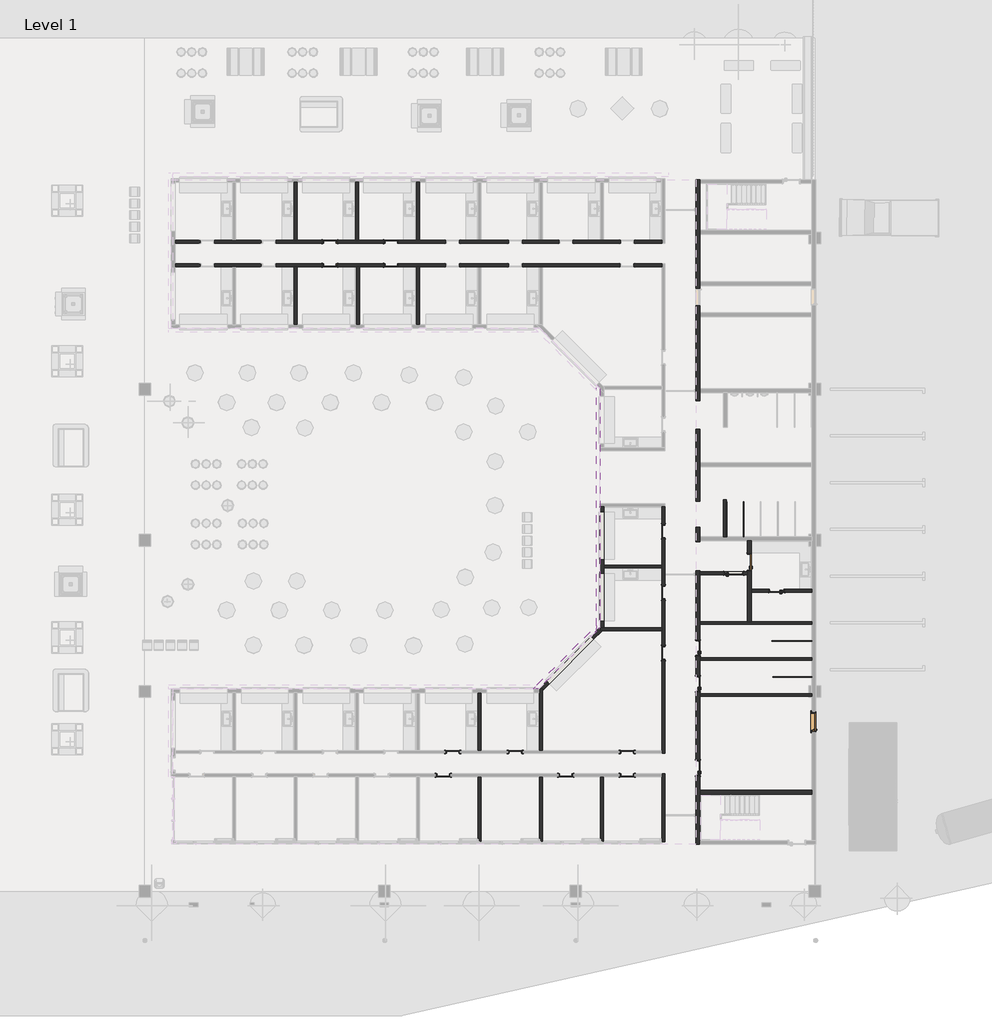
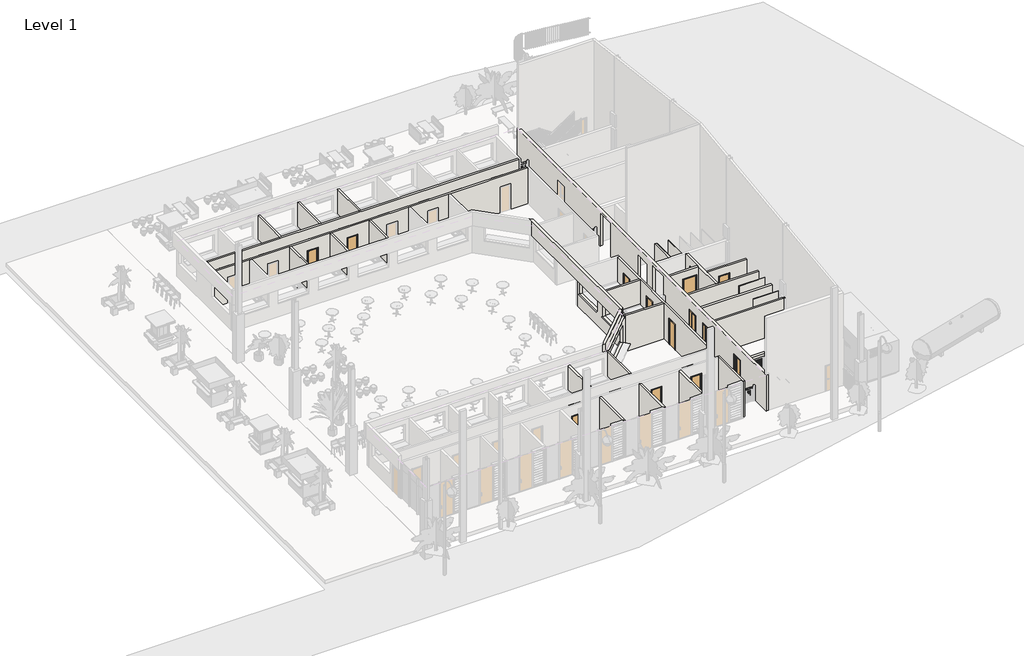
# One storey, part 12 of 32: 34 walls, 20 doors.
"""IFC4 building model written with IfcOpenShell, lengths in millimetres."""

from ifc_helpers import new_model, si_unit, frame, origin, place, context, project, spatial, polyline, outline, extrude, faceted_brep, transform, mapped, element, save
from components import doors_intsgl_1_1010x2110mm_7920e6b8, doors_intsgl_1_760x2110mm_a62a0124, doors_intsgl_1_760x2110mm_b66d165a, doors_intsgl_1_810x2110mm_70afc9f2, doors_intsgl_1_810x2110mm_25a09e80, doors_intsgl_1_910x2110mm_80b4a4db, ext_single_in_timber_flush_nz_910_x_2030_787d0b92

model = new_model("IFC4")

# Units and contexts
model_context = context("Model", 3, world=origin())
ifc_project = project(units=[si_unit("LENGTHUNIT", "METRE", prefix="MILLI")], contexts=[model_context])

# Site, building, storey
site = spatial("IfcSite", under=ifc_project)
building = spatial("IfcBuilding", under=site)
storey = spatial("IfcBuildingStorey", under=building, Name="Level 1", Elevation=2800.0)

# Doors
placement = place(None, origin())
doors_intsgl_1_1010x2110mm_shape = doors_intsgl_1_1010x2110mm_7920e6b8(model_context)
element("IfcDoor", 1, ObjectType="Doors_IntSgl_1 : 1010x2110mm", at=placement, inside=storey, context=model_context, shape_type="MappedRepresentation", body=[
    mapped(doors_intsgl_1_1010x2110mm_shape, transform((-16970.9339353, -19480.9199596, 2820.0), x_axis=(1.0, 0.0, 0.0), y_axis=(0.0, 1.0, 0.0), z_axis=(0.0, 0.0, 1.0))),
])
doors_intsgl_1_760x2110mm_shape = doors_intsgl_1_760x2110mm_a62a0124(model_context)
element("IfcDoor", 2, ObjectType="Doors_IntSgl_1 : 760x2110mm", at=placement, inside=storey, context=model_context, shape_type="MappedRepresentation", body=[
    mapped(doors_intsgl_1_760x2110mm_shape, transform((-22450.9339353, -29855.9199596, 2800.0), x_axis=(-1.0, 0.0, 0.0), y_axis=(0.0, -1.0, 0.0), z_axis=(0.0, 0.0, 1.0))),
])
element("IfcDoor", 3, ObjectType="Doors_IntSgl_1 : 760x2110mm", at=placement, inside=storey, context=model_context, shape_type="MappedRepresentation", body=[
    mapped(doors_intsgl_1_760x2110mm_shape, transform((-25600.9339353, -29855.9199596, 2800.0), x_axis=(-1.0, 0.0, 0.0), y_axis=(0.0, -1.0, 0.0), z_axis=(0.0, 0.0, 1.0))),
])
element("IfcDoor", 4, ObjectType="Doors_IntSgl_1 : 760x2110mm", at=placement, inside=storey, context=model_context, shape_type="MappedRepresentation", body=[
    mapped(doors_intsgl_1_760x2110mm_shape, transform((-31900.9339353, -29855.9199596, 2800.0), x_axis=(-1.0, 0.0, 0.0), y_axis=(0.0, -1.0, 0.0), z_axis=(0.0, 0.0, 1.0))),
])
element("IfcDoor", 5, ObjectType="Doors_IntSgl_1 : 760x2110mm", at=placement, inside=storey, context=model_context, shape_type="MappedRepresentation", body=[
    mapped(doors_intsgl_1_760x2110mm_shape, transform((-20585.9339353, -23570.9199596, 2800.0), x_axis=(0.0, 1.0, 0.0), y_axis=(-1.0, 0.0, 0.0), z_axis=(0.0, 0.0, 1.0))),
])
element("IfcDoor", 6, ObjectType="Doors_IntSgl_1 : 760x2110mm", at=placement, inside=storey, context=model_context, shape_type="MappedRepresentation", body=[
    mapped(doors_intsgl_1_760x2110mm_shape, transform((-34571.3056755, -2455.9199596, 2800.0), x_axis=(1.0, 0.0, 0.0), y_axis=(0.0, 1.0, 0.0), z_axis=(0.0, 0.0, 1.0))),
])
element("IfcDoor", 7, ObjectType="Doors_IntSgl_1 : 760x2110mm", at=placement, inside=storey, context=model_context, shape_type="MappedRepresentation", body=[
    mapped(doors_intsgl_1_760x2110mm_shape, transform((-37716.7705062, -2455.9199596, 2800.0), x_axis=(1.0, 0.0, 0.0), y_axis=(0.0, 1.0, 0.0), z_axis=(0.0, 0.0, 1.0))),
])
element("IfcDoor", 8, ObjectType="Doors_IntSgl_1 : 760x2110mm", at=placement, inside=storey, context=model_context, shape_type="MappedRepresentation", body=[
    mapped(doors_intsgl_1_760x2110mm_shape, transform((-28195.9339353, -28655.9199596, 2800.0), x_axis=(1.0, 0.0, 0.0), y_axis=(0.0, 1.0, 0.0), z_axis=(0.0, 0.0, 1.0))),
])
element("IfcDoor", 9, ObjectType="Doors_IntSgl_1 : 760x2110mm", at=placement, inside=storey, context=model_context, shape_type="MappedRepresentation", body=[
    mapped(doors_intsgl_1_760x2110mm_shape, transform((-31420.9339353, -28655.9199596, 2800.0), x_axis=(1.0, 0.0, 0.0), y_axis=(0.0, 1.0, 0.0), z_axis=(0.0, 0.0, 1.0))),
])
element("IfcDoor", 10, ObjectType="Doors_IntSgl_1 : 760x2110mm", at=placement, inside=storey, context=model_context, shape_type="MappedRepresentation", body=[
    mapped(doors_intsgl_1_760x2110mm_shape, transform((-20585.9339353, -20470.9199596, 2800.0), x_axis=(0.0, 1.0, 0.0), y_axis=(-1.0, 0.0, 0.0), z_axis=(0.0, 0.0, 1.0))),
])
element("IfcDoor", 11, ObjectType="Doors_IntSgl_1 : 760x2110mm", at=placement, inside=storey, context=model_context, shape_type="MappedRepresentation", body=[
    mapped(doors_intsgl_1_760x2110mm_shape, transform((-20585.9339353, -17320.9199596, 2800.0), x_axis=(0.0, 1.0, 0.0), y_axis=(-1.0, 0.0, 0.0), z_axis=(0.0, 0.0, 1.0))),
])
doors_intsgl_1_760x2110mm_2_shape = doors_intsgl_1_760x2110mm_b66d165a(model_context)
element("IfcDoor", 12, ObjectType="Doors_IntSgl_1 : 760x2110mm", at=placement, inside=storey, context=model_context, shape_type="MappedRepresentation", body=[
    mapped(doors_intsgl_1_760x2110mm_2_shape, transform((-22450.9339353, -28655.9199596, 2800.0), x_axis=(-1.0, 0.0, 0.0), y_axis=(0.0, -1.0, 0.0), z_axis=(0.0, 0.0, 1.0))),
])
element("IfcDoor", 13, ObjectType="Doors_IntSgl_1 : 760x2110mm", at=placement, inside=storey, context=model_context, shape_type="MappedRepresentation", body=[
    mapped(doors_intsgl_1_760x2110mm_2_shape, transform((-34571.3056755, -3655.9199596, 2800.0), x_axis=(1.0, 0.0, 0.0), y_axis=(0.0, 1.0, 0.0), z_axis=(0.0, 0.0, 1.0))),
])
element("IfcDoor", 14, ObjectType="Doors_IntSgl_1 : 760x2110mm", at=placement, inside=storey, context=model_context, shape_type="MappedRepresentation", body=[
    mapped(doors_intsgl_1_760x2110mm_2_shape, transform((-37716.7705062, -3655.9199596, 2800.0), x_axis=(1.0, 0.0, 0.0), y_axis=(0.0, 1.0, 0.0), z_axis=(0.0, 0.0, 1.0))),
])
doors_intsgl_1_810x2110mm_shape = doors_intsgl_1_810x2110mm_70afc9f2(model_context)
element("IfcDoor", 15, ObjectType="Doors_IntSgl_1 : 810x2110mm", at=placement, inside=storey, context=model_context, shape_type="MappedRepresentation", body=[
    mapped(doors_intsgl_1_810x2110mm_shape, transform((-18810.7705062, -29475.5199596, 2800.0), x_axis=(0.0, 1.0, 0.0), y_axis=(-1.0, 0.0, 0.0), z_axis=(0.0, 0.0, 1.0))),
])
element("IfcDoor", 16, ObjectType="Doors_IntSgl_1 : 810x2110mm", at=placement, inside=storey, context=model_context, shape_type="MappedRepresentation", body=[
    mapped(doors_intsgl_1_810x2110mm_shape, transform((-18810.7705062, -23320.5199596, 2800.0), x_axis=(0.0, 1.0, 0.0), y_axis=(-1.0, 0.0, 0.0), z_axis=(0.0, 0.0, 1.0))),
])
element("IfcDoor", 17, ObjectType="Doors_IntSgl_1 : 810x2110mm", at=placement, inside=storey, context=model_context, shape_type="MappedRepresentation", body=[
    mapped(doors_intsgl_1_810x2110mm_shape, transform((-18810.7705062, -25160.5199596, 2800.0), x_axis=(0.0, 1.0, 0.0), y_axis=(-1.0, 0.0, 0.0), z_axis=(0.0, 0.0, 1.0))),
])
doors_intsgl_1_810x2110mm_2_shape = doors_intsgl_1_810x2110mm_25a09e80(model_context)
element("IfcDoor", 18, ObjectType="Doors_IntSgl_1 : 810x2110mm", at=placement, inside=storey, context=model_context, shape_type="MappedRepresentation", body=[
    mapped(doors_intsgl_1_810x2110mm_2_shape, transform((-14765.7705062, -20380.9199596, 2800.0), x_axis=(-1.0, 0.0, 0.0), y_axis=(0.0, -1.0, 0.0), z_axis=(0.0, 0.0, 1.0))),
])
doors_intsgl_1_910x2110mm_shape = doors_intsgl_1_910x2110mm_80b4a4db(model_context)
element("IfcDoor", 19, ObjectType="Doors_IntSgl_1 : 910x2110mm", at=placement, inside=storey, context=model_context, shape_type="MappedRepresentation", body=[
    mapped(doors_intsgl_1_910x2110mm_shape, transform((-16175.9339353, -18910.9199596, 2800.0), x_axis=(0.0, 1.0, 0.0), y_axis=(-1.0, 0.0, 0.0), z_axis=(0.0, 0.0, 1.0))),
])
ext_single_in_timber_flush_nz_910_x_2030_shape = ext_single_in_timber_flush_nz_910_x_2030_787d0b92(model_context)
element("IfcDoor", 20, ObjectType="Ext Single In-Timber-Flush (NZ) : 910 x 2030", at=placement, inside=storey, context=model_context, shape_type="MappedRepresentation", body=[
    mapped(ext_single_in_timber_flush_nz_910_x_2030_shape, transform((-12809.9496854, -27135.5199596, 2800.0), x_axis=(0.0, 1.0, 0.0), y_axis=(-1.0, 0.0, 0.0), z_axis=(0.0, 0.0, 1.0))),
])

# Walls
element("IfcWall", 21, ObjectType="150cmu", at=placement, inside=storey, context=model_context, shape_type="SweptSolid", body=[
    extrude(outline(polyline([(-17510.7705062, -17605.9199596), (-17510.7705062, -15705.9199596), (-17360.7705062, -15705.9199596), (-17360.7705062, -17605.9199596), (-17510.7705062, -17605.9199596)])), frame((0.0, 0.0, 2800.0), z_axis=(0.0, 0.0, 1.0), x_axis=(1.0, 0.0, 0.0)), (0.0, 0.0, 1.0), 2789.0),
])
element("IfcWall", 22, ObjectType="150cmu", at=placement, inside=storey, context=model_context, shape_type="SweptSolid", body=[
    extrude(outline(polyline([(-18710.7705062, -23805.5199596), (-12960.7705062, -23805.5199596), (-12960.7705062, -23955.5199596), (-18710.7705062, -23955.5199596), (-18710.7705062, -23805.5199596)])), frame((0.0, 0.0, 2800.0), z_axis=(0.0, 0.0, 1.0), x_axis=(1.0, 0.0, 0.0)), (0.0, 0.0, 1.0), 2789.0),
])
element("IfcWall", 23, ObjectType="150cmu", at=placement, inside=storey, context=model_context, shape_type="Brep", body=[
    faceted_brep([(-20510.9339353, -33255.9199596, 2800.0), (-20510.9339353, -29780.9199596, 2800.0), (-20510.9339353, -29780.9199596, 5800.0), (-20510.9339353, -33255.9199596, 5800.0), (-20660.9339353, -33255.9199596, 2800.0), (-20660.9339353, -33255.9199596, 5800.0), (-20660.9339353, -29930.9199596, 5800.0), (-20660.9339353, -29780.9199596, 5800.0), (-20660.9339353, -29780.9199596, 2800.0), (-20660.9339353, -29930.9199596, 2800.0)], [[[0, 1, 2, 3]], [[4, 5, 6, 7, 8, 9]], [[1, 0, 4, 9, 8]], [[3, 2, 7, 6, 5]], [[0, 3, 5, 4]], [[2, 1, 8, 7]]]),
])
element("IfcWall", 24, ObjectType="150cmu", at=placement, inside=storey, context=model_context, shape_type="SweptSolid", body=[
    extrude(outline(polyline([(-23810.9339353, -33230.9199596), (-23810.9339353, -29930.9199596), (-23660.9339353, -29930.9199596), (-23660.9339353, -33230.9199596), (-23810.9339353, -33230.9199596)])), frame((0.0, 0.0, 2800.0), z_axis=(0.0, 0.0, 1.0), x_axis=(1.0, 0.0, 0.0)), (0.0, 0.0, 1.0), 3000.0),
])
element("IfcWall", 25, ObjectType="150cmu", at=placement, inside=storey, context=model_context, shape_type="SweptSolid", body=[
    extrude(outline(polyline([(-26810.9339353, -29930.9199596), (-26810.9339353, -33230.9199596), (-26960.9339353, -33230.9199596), (-26960.9339353, -29930.9199596), (-26810.9339353, -29930.9199596)])), frame((0.0, 0.0, 2800.0), z_axis=(0.0, 0.0, 1.0), x_axis=(1.0, 0.0, 0.0)), (0.0, 0.0, 1.0), 3000.0),
])
element("IfcWall", 26, ObjectType="150cmu", at=placement, inside=storey, context=model_context, shape_type="SweptSolid", body=[
    extrude(outline(polyline([(-29960.9339353, -29930.9199596), (-29960.9339353, -33230.9199596), (-30110.9339353, -33230.9199596), (-30110.9339353, -29930.9199596), (-29960.9339353, -29930.9199596)])), frame((0.0, 0.0, 2800.0), z_axis=(0.0, 0.0, 1.0), x_axis=(1.0, 0.0, 0.0)), (0.0, 0.0, 1.0), 3000.0),
])
element("IfcWall", 27, ObjectType="150cmu", at=placement, inside=storey, context=model_context, shape_type="SweptSolid", body=[
    extrude(outline(polyline([(2800.0, -16275.9339353), (5589.0, -16275.9339353), (5589.0, -18710.7705062), (2800.0, -18710.7705062), (2800.0, -16275.9339353)]), holes=[polyline([(2820.0, -16465.9339353), (2820.0, -17475.9339353), (4930.0, -17475.9339353), (4930.0, -16465.9339353), (2820.0, -16465.9339353)])]), frame((0.0, -19555.9199596, 0.0), z_axis=(0.0, 1.0, 0.0), x_axis=(0.0, 0.0, 1.0)), (0.0, 0.0, 1.0), 150.0),
])
element("IfcWall", 28, ObjectType="150cmu", at=placement, inside=storey, context=model_context, shape_type="Brep", body=[
    faceted_brep([(-20660.9339353, -28730.9199596, 5800.0), (-20660.9339353, -28580.9199596, 5800.0), (-20660.9339353, -22430.9199596, 5800.0), (-20660.9339353, -22280.9199596, 5800.0), (-20660.9339353, -19205.9199596, 5800.0), (-20660.9339353, -19055.9199596, 5800.0), (-20660.9339353, -16055.9199596, 5800.0), (-20660.9339353, -16055.9199596, 2800.0), (-20660.9339353, -16960.9199596, 2800.0), (-20660.9339353, -16960.9199596, 4910.0), (-20660.9339353, -17680.9199596, 4910.0), (-20660.9339353, -17680.9199596, 2800.0), (-20660.9339353, -19055.9199596, 2800.0), (-20660.9339353, -19205.9199596, 2800.0), (-20660.9339353, -20110.9199596, 2800.0), (-20660.9339353, -20110.9199596, 4910.0), (-20660.9339353, -20830.9199596, 4910.0), (-20660.9339353, -20830.9199596, 2800.0), (-20660.9339353, -22280.9199596, 2800.0), (-20660.9339353, -22430.9199596, 2800.0), (-20660.9339353, -23210.9199596, 2800.0), (-20660.9339353, -23210.9199596, 4910.0), (-20660.9339353, -23930.9199596, 4910.0), (-20660.9339353, -23930.9199596, 2800.0), (-20660.9339353, -28580.9199596, 2800.0), (-20660.9339353, -28730.9199596, 2800.0), (-20510.9339353, -16055.9199596, 5800.0), (-20510.9339353, -28730.9199596, 5800.0), (-20510.9339353, -28730.9199596, 2800.0), (-20510.9339353, -23930.9199596, 2800.0), (-20510.9339353, -23930.9199596, 4910.0), (-20510.9339353, -23210.9199596, 4910.0), (-20510.9339353, -23210.9199596, 2800.0), (-20510.9339353, -20830.9199596, 2800.0), (-20510.9339353, -20830.9199596, 4910.0), (-20510.9339353, -20110.9199596, 4910.0), (-20510.9339353, -20110.9199596, 2800.0), (-20510.9339353, -17680.9199596, 2800.0), (-20510.9339353, -17680.9199596, 4910.0), (-20510.9339353, -16960.9199596, 4910.0), (-20510.9339353, -16960.9199596, 2800.0), (-20510.9339353, -16055.9199596, 2800.0)], [[[0, 1, 2, 3, 4, 5, 6, 7, 8, 9, 10, 11, 12, 13, 14, 15, 16, 17, 18, 19, 20, 21, 22, 23, 24, 25]], [[26, 27, 28, 29, 30, 31, 32, 33, 34, 35, 36, 37, 38, 39, 40, 41]], [[32, 20, 19, 18, 17, 33]], [[23, 29, 28, 25, 24]], [[7, 41, 40, 8]], [[36, 14, 13, 12, 11, 37]], [[6, 5, 4, 3, 2, 1, 0, 27, 26]], [[21, 20, 32, 31]], [[22, 21, 31, 30]], [[23, 22, 30, 29]], [[7, 6, 26, 41]], [[35, 15, 14, 36]], [[15, 35, 34, 16]], [[16, 34, 33, 17]], [[39, 9, 8, 40]], [[9, 39, 38, 10]], [[10, 38, 37, 11]], [[0, 25, 28, 27]]]),
])
element("IfcWall", 29, ObjectType="150cmu", at=placement, inside=storey, context=model_context, shape_type="Brep", body=[
    faceted_brep([(-20660.9339353, -22280.9199596, 2800.0), (-23635.9339353, -22280.9199596, 2800.0), (-23835.9339353, -22280.9199596, 2800.0), (-23835.9339353, -22280.9199596, 5800.0), (-23635.9339353, -22280.9199596, 5800.0), (-20660.9339353, -22280.9199596, 5800.0), (-20660.9339353, -22430.9199596, 2800.0), (-20660.9339353, -22430.9199596, 5800.0), (-23730.7824163, -22430.9199596, 5800.0), (-23835.9339353, -22430.9199596, 5800.0), (-23835.9339353, -22430.9199596, 2800.0), (-23730.7824163, -22430.9199596, 2800.0)], [[[0, 1, 2, 3, 4, 5]], [[6, 7, 8, 9, 10, 11]], [[2, 1, 0, 6, 11, 10]], [[5, 4, 3, 9, 8, 7]], [[0, 5, 7, 6]], [[3, 2, 10, 9]]]),
])
element("IfcWall", 30, ObjectType="150cmu", at=placement, inside=storey, context=model_context, shape_type="Brep", body=[
    faceted_brep([(-26960.9339353, -25405.9199596, 2800.0), (-26960.9339353, -25605.9199596, 2800.0), (-26960.9339353, -28580.9199596, 2800.0), (-26960.9339353, -28580.9199596, 5800.0), (-26960.9339353, -25605.9199596, 5800.0), (-26960.9339353, -25405.9199596, 5800.0), (-26810.9339353, -25405.9199596, 2800.0), (-26810.9339353, -25405.9199596, 5800.0), (-26810.9339353, -25511.0714786, 5800.0), (-26810.9339353, -28580.9199596, 5800.0), (-26810.9339353, -28580.9199596, 2800.0), (-26810.9339353, -25511.0714786, 2800.0)], [[[0, 1, 2, 3, 4, 5]], [[6, 7, 8, 9, 10, 11]], [[2, 1, 0, 6, 11, 10]], [[5, 4, 3, 9, 8, 7]], [[3, 2, 10, 9]], [[0, 5, 7, 6]]]),
])
element("IfcWall", 31, ObjectType="150cmu", at=placement, inside=storey, context=model_context, shape_type="SweptSolid", body=[
    extrude(outline(polyline([(-30110.9339353, -28580.9199596), (-30110.9339353, -25605.9199596), (-29960.9339353, -25605.9199596), (-29960.9339353, -28580.9199596), (-30110.9339353, -28580.9199596)])), frame((0.0, 0.0, 2800.0), z_axis=(0.0, 0.0, 1.0), x_axis=(1.0, 0.0, 0.0)), (0.0, 0.0, 1.0), 3000.0),
])
element("IfcWall", 32, ObjectType="150cmu", at=placement, inside=storey, context=model_context, shape_type="Brep", body=[
    faceted_brep([(-12960.7705062, -21955.5199596, 2800.0), (-16075.9339353, -21955.5199596, 2800.0), (-16275.9339353, -21955.5199596, 2800.0), (-18710.7705062, -21955.5199596, 2800.0), (-18710.7705062, -21955.5199596, 5589.0), (-16275.9339353, -21955.5199596, 5589.0), (-16075.9339353, -21955.5199596, 5589.0), (-12960.7705062, -21955.5199596, 5589.0), (-12960.7705062, -22105.5199596, 2800.0), (-12960.7705062, -22105.5199596, 5589.0), (-18710.7705062, -22105.5199596, 5589.0), (-18710.7705062, -22105.5199596, 2800.0)], [[[0, 1, 2, 3, 4, 5, 6, 7]], [[8, 9, 10, 11]], [[3, 2, 1, 0, 8, 11]], [[0, 7, 9, 8]], [[4, 3, 11, 10]], [[7, 6, 5, 4, 10, 9]]]),
])
element("IfcWall", 33, ObjectType="150cmu", at=placement, inside=storey, context=model_context, shape_type="SweptSolid", body=[
    extrude(outline(polyline([(2800.0, -12960.7705062), (5589.0, -12960.7705062), (5589.0, -16075.9339353), (2800.0, -16075.9339353), (2800.0, -15170.7705062), (4910.0, -15170.7705062), (4910.0, -14360.7705062), (2800.0, -14360.7705062), (2800.0, -12960.7705062)])), frame((0.0, -20455.9199596, 0.0), z_axis=(0.0, 1.0, 0.0), x_axis=(0.0, 0.0, 1.0)), (0.0, 0.0, 1.0), 150.0),
])
element("IfcWall", 34, ObjectType="150cmu", at=placement, inside=storey, context=model_context, shape_type="Brep", body=[
    faceted_brep([(-45686.3056755, -2380.9199596, 5800.0), (-42711.3056755, -2380.9199596, 5800.0), (-42561.3056755, -2380.9199596, 5800.0), (-39561.3056755, -2380.9199596, 5800.0), (-39411.3056755, -2380.9199596, 5800.0), (-36411.3056755, -2380.9199596, 5800.0), (-36261.3056755, -2380.9199596, 5800.0), (-33260.9339353, -2380.9199596, 5800.0), (-33110.9339353, -2380.9199596, 5800.0), (-30110.9339353, -2380.9199596, 5800.0), (-29960.9339353, -2380.9199596, 5800.0), (-26960.9339353, -2380.9199596, 5800.0), (-26810.9339353, -2380.9199596, 5800.0), (-23810.9339353, -2380.9199596, 5800.0), (-23660.9339353, -2380.9199596, 5800.0), (-20660.9339353, -2380.9199596, 5800.0), (-20660.9339353, -2380.9199596, 2800.0), (-22080.9339353, -2380.9199596, 2800.0), (-22080.9339353, -2380.9199596, 4910.0), (-22800.9339353, -2380.9199596, 4910.0), (-22800.9339353, -2380.9199596, 2800.0), (-23660.9339353, -2380.9199596, 2800.0), (-23810.9339353, -2380.9199596, 2800.0), (-25230.9339353, -2380.9199596, 2800.0), (-25230.9339353, -2380.9199596, 4910.0), (-25950.9339353, -2380.9199596, 4910.0), (-25950.9339353, -2380.9199596, 2800.0), (-26810.9339353, -2380.9199596, 2800.0), (-26960.9339353, -2380.9199596, 2800.0), (-27835.9339353, -2380.9199596, 2800.0), (-27835.9339353, -2380.9199596, 4910.0), (-28555.9339353, -2380.9199596, 4910.0), (-28555.9339353, -2380.9199596, 2800.0), (-29960.9339353, -2380.9199596, 2800.0), (-30110.9339353, -2380.9199596, 2800.0), (-31060.9339353, -2380.9199596, 2800.0), (-31060.9339353, -2380.9199596, 4910.0), (-31780.9339353, -2380.9199596, 4910.0), (-31780.9339353, -2380.9199596, 2800.0), (-33110.9339353, -2380.9199596, 2800.0), (-33260.9339353, -2380.9199596, 2800.0), (-34211.3056755, -2380.9199596, 2800.0), (-34211.3056755, -2380.9199596, 4910.0), (-34931.3056755, -2380.9199596, 4910.0), (-34931.3056755, -2380.9199596, 2800.0), (-36261.3056755, -2380.9199596, 2800.0), (-36411.3056755, -2380.9199596, 2800.0), (-37356.7705062, -2380.9199596, 2800.0), (-37356.7705062, -2380.9199596, 4910.0), (-38076.7705062, -2380.9199596, 4910.0), (-38076.7705062, -2380.9199596, 2800.0), (-39411.3056755, -2380.9199596, 2800.0), (-39561.3056755, -2380.9199596, 2800.0), (-40511.3056755, -2380.9199596, 2800.0), (-40511.3056755, -2380.9199596, 4910.0), (-41231.3056755, -2380.9199596, 4910.0), (-41231.3056755, -2380.9199596, 2800.0), (-42561.3056755, -2380.9199596, 2800.0), (-42711.3056755, -2380.9199596, 2800.0), (-43661.3056755, -2380.9199596, 2800.0), (-43661.3056755, -2380.9199596, 4910.0), (-44381.3056755, -2380.9199596, 4910.0), (-44381.3056755, -2380.9199596, 2800.0), (-45686.3056755, -2380.9199596, 2800.0), (-20660.9339353, -2530.9199596, 5800.0), (-45686.3056755, -2530.9199596, 5800.0), (-45686.3056755, -2530.9199596, 2800.0), (-44381.3056755, -2530.9199596, 2800.0), (-44381.3056755, -2530.9199596, 4910.0), (-43661.3056755, -2530.9199596, 4910.0), (-43661.3056755, -2530.9199596, 2800.0), (-41231.3056755, -2530.9199596, 2800.0), (-41231.3056755, -2530.9199596, 4910.0), (-40511.3056755, -2530.9199596, 4910.0), (-40511.3056755, -2530.9199596, 2800.0), (-38076.7705062, -2530.9199596, 2800.0), (-38076.7705062, -2530.9199596, 4910.0), (-37356.7705062, -2530.9199596, 4910.0), (-37356.7705062, -2530.9199596, 2800.0), (-34931.3056755, -2530.9199596, 2800.0), (-34931.3056755, -2530.9199596, 4910.0), (-34211.3056755, -2530.9199596, 4910.0), (-34211.3056755, -2530.9199596, 2800.0), (-31780.9339353, -2530.9199596, 2800.0), (-31780.9339353, -2530.9199596, 4910.0), (-31060.9339353, -2530.9199596, 4910.0), (-31060.9339353, -2530.9199596, 2800.0), (-28555.9339353, -2530.9199596, 2800.0), (-28555.9339353, -2530.9199596, 4910.0), (-27835.9339353, -2530.9199596, 4910.0), (-27835.9339353, -2530.9199596, 2800.0), (-25950.9339353, -2530.9199596, 2800.0), (-25950.9339353, -2530.9199596, 4910.0), (-25230.9339353, -2530.9199596, 4910.0), (-25230.9339353, -2530.9199596, 2800.0), (-22800.9339353, -2530.9199596, 2800.0), (-22800.9339353, -2530.9199596, 4910.0), (-22080.9339353, -2530.9199596, 4910.0), (-22080.9339353, -2530.9199596, 2800.0), (-20660.9339353, -2530.9199596, 2800.0)], [[[0, 1, 2, 3, 4, 5, 6, 7, 8, 9, 10, 11, 12, 13, 14, 15, 16, 17, 18, 19, 20, 21, 22, 23, 24, 25, 26, 27, 28, 29, 30, 31, 32, 33, 34, 35, 36, 37, 38, 39, 40, 41, 42, 43, 44, 45, 46, 47, 48, 49, 50, 51, 52, 53, 54, 55, 56, 57, 58, 59, 60, 61, 62, 63]], [[64, 65, 66, 67, 68, 69, 70, 71, 72, 73, 74, 75, 76, 77, 78, 79, 80, 81, 82, 83, 84, 85, 86, 87, 88, 89, 90, 91, 92, 93, 94, 95, 96, 97, 98, 99]], [[16, 99, 98, 17]], [[26, 91, 90, 29, 28, 27]], [[94, 23, 22, 21, 20, 95]], [[32, 87, 86, 35, 34, 33]], [[66, 63, 62, 67]], [[38, 83, 82, 41, 40, 39]], [[44, 79, 78, 47, 46, 45]], [[50, 75, 74, 53, 52, 51]], [[56, 71, 70, 59, 58, 57]], [[15, 14, 13, 12, 11, 10, 9, 8, 7, 6, 5, 4, 3, 2, 1, 0, 65, 64]], [[16, 15, 64, 99]], [[25, 92, 91, 26]], [[92, 25, 24, 93]], [[93, 24, 23, 94]], [[30, 29, 90, 89]], [[31, 30, 89, 88]], [[32, 31, 88, 87]], [[0, 63, 66, 65]], [[85, 36, 35, 86]], [[36, 85, 84, 37]], [[37, 84, 83, 38]], [[81, 42, 41, 82]], [[42, 81, 80, 43]], [[43, 80, 79, 44]], [[77, 48, 47, 78]], [[48, 77, 76, 49]], [[49, 76, 75, 50]], [[73, 54, 53, 74]], [[54, 73, 72, 55]], [[55, 72, 71, 56]], [[69, 60, 59, 70]], [[60, 69, 68, 61]], [[61, 68, 67, 62]], [[19, 96, 95, 20]], [[96, 19, 18, 97]], [[97, 18, 17, 98]]]),
])
element("IfcWall", 35, ObjectType="150cmu", at=placement, inside=storey, context=model_context, shape_type="SweptSolid", body=[
    extrude(outline(polyline([(-33260.9339353, -2380.9199596), (-33260.9339353, 594.0800404), (-33110.9339353, 594.0800404), (-33110.9339353, -2380.9199596), (-33260.9339353, -2380.9199596)])), frame((0.0, 0.0, 2800.0), z_axis=(0.0, 0.0, 1.0), x_axis=(1.0, 0.0, 0.0)), (0.0, 0.0, 1.0), 3000.0),
])
element("IfcWall", 36, ObjectType="150cmu", at=placement, inside=storey, context=model_context, shape_type="SweptSolid", body=[
    extrude(outline(polyline([(-36411.3056755, -2380.9199596), (-36411.3056755, 594.0800404), (-36261.3056755, 594.0800404), (-36261.3056755, -2380.9199596), (-36411.3056755, -2380.9199596)])), frame((0.0, 0.0, 2800.0), z_axis=(0.0, 0.0, 1.0), x_axis=(1.0, 0.0, 0.0)), (0.0, 0.0, 1.0), 3000.0),
])
element("IfcWall", 37, ObjectType="150cmu", at=placement, inside=storey, context=model_context, shape_type="SweptSolid", body=[
    extrude(outline(polyline([(-39561.3056755, -2380.9199596), (-39561.3056755, 594.0800404), (-39411.3056755, 594.0800404), (-39411.3056755, -2380.9199596), (-39561.3056755, -2380.9199596)])), frame((0.0, 0.0, 2800.0), z_axis=(0.0, 0.0, 1.0), x_axis=(1.0, 0.0, 0.0)), (0.0, 0.0, 1.0), 3000.0),
])
element("IfcWall", 38, ObjectType="150cmu", at=placement, inside=storey, context=model_context, shape_type="SweptSolid", body=[
    extrude(outline(polyline([(-33110.9339353, -3730.9199596), (-33110.9339353, -6705.9199596), (-33260.9339353, -6705.9199596), (-33260.9339353, -3730.9199596), (-33110.9339353, -3730.9199596)])), frame((0.0, 0.0, 2800.0), z_axis=(0.0, 0.0, 1.0), x_axis=(1.0, 0.0, 0.0)), (0.0, 0.0, 1.0), 3000.0),
])
element("IfcWall", 39, ObjectType="150cmu", at=placement, inside=storey, context=model_context, shape_type="SweptSolid", body=[
    extrude(outline(polyline([(-36206.9339353, -3730.9199596), (-36206.9339353, -6705.9199596), (-36356.9339353, -6705.9199596), (-36356.9339353, -3730.9199596), (-36206.9339353, -3730.9199596)])), frame((0.0, 0.0, 2800.0), z_axis=(0.0, 0.0, 1.0), x_axis=(1.0, 0.0, 0.0)), (0.0, 0.0, 1.0), 3000.0),
])
element("IfcWall", 40, ObjectType="150cmu", at=placement, inside=storey, context=model_context, shape_type="SweptSolid", body=[
    extrude(outline(polyline([(-39411.3056755, -3730.9199596), (-39411.3056755, -6705.9199596), (-39561.3056755, -6705.9199596), (-39561.3056755, -3730.9199596), (-39411.3056755, -3730.9199596)])), frame((0.0, 0.0, 2800.0), z_axis=(0.0, 0.0, 1.0), x_axis=(1.0, 0.0, 0.0)), (0.0, 0.0, 1.0), 3000.0),
])
element("IfcWall", 41, ObjectType="150cmu", at=placement, inside=storey, context=model_context, shape_type="Brep", body=[
    faceted_brep([(-45686.3056755, -3580.9199596, 5800.0), (-20660.9339353, -3580.9199596, 5800.0), (-20660.9339353, -3580.9199596, 2800.0), (-22090.9339353, -3580.9199596, 2800.0), (-22090.9339353, -3580.9199596, 4910.0), (-22810.9339353, -3580.9199596, 4910.0), (-22810.9339353, -3580.9199596, 2800.0), (-27835.9339353, -3580.9199596, 2800.0), (-27835.9339353, -3580.9199596, 4910.0), (-28555.9339353, -3580.9199596, 4910.0), (-28555.9339353, -3580.9199596, 2800.0), (-31060.9339353, -3580.9199596, 2800.0), (-31060.9339353, -3580.9199596, 4910.0), (-31780.9339353, -3580.9199596, 4910.0), (-31780.9339353, -3580.9199596, 2800.0), (-34211.3056755, -3580.9199596, 2800.0), (-34211.3056755, -3580.9199596, 4910.0), (-34931.3056755, -3580.9199596, 4910.0), (-34931.3056755, -3580.9199596, 2800.0), (-37356.7705062, -3580.9199596, 2800.0), (-37356.7705062, -3580.9199596, 4910.0), (-38076.7705062, -3580.9199596, 4910.0), (-38076.7705062, -3580.9199596, 2800.0), (-40511.3056755, -3580.9199596, 2800.0), (-40511.3056755, -3580.9199596, 4910.0), (-41231.3056755, -3580.9199596, 4910.0), (-41231.3056755, -3580.9199596, 2800.0), (-43661.3056755, -3580.9199596, 2800.0), (-43661.3056755, -3580.9199596, 4910.0), (-44381.3056755, -3580.9199596, 4910.0), (-44381.3056755, -3580.9199596, 2800.0), (-45686.3056755, -3580.9199596, 2800.0), (-20660.9339353, -3730.9199596, 5800.0), (-26810.9339353, -3730.9199596, 5800.0), (-26960.9339353, -3730.9199596, 5800.0), (-29960.9339353, -3730.9199596, 5800.0), (-30110.9339353, -3730.9199596, 5800.0), (-33110.9339353, -3730.9199596, 5800.0), (-33260.9339353, -3730.9199596, 5800.0), (-36206.9339353, -3730.9199596, 5800.0), (-36356.9339353, -3730.9199596, 5800.0), (-39411.3056755, -3730.9199596, 5800.0), (-39561.3056755, -3730.9199596, 5800.0), (-42561.3056755, -3730.9199596, 5800.0), (-42711.3056755, -3730.9199596, 5800.0), (-45686.3056755, -3730.9199596, 5800.0), (-45686.3056755, -3730.9199596, 2800.0), (-44381.3056755, -3730.9199596, 2800.0), (-44381.3056755, -3730.9199596, 4910.0), (-43661.3056755, -3730.9199596, 4910.0), (-43661.3056755, -3730.9199596, 2800.0), (-42711.3056755, -3730.9199596, 2800.0), (-42561.3056755, -3730.9199596, 2800.0), (-41231.3056755, -3730.9199596, 2800.0), (-41231.3056755, -3730.9199596, 4910.0), (-40511.3056755, -3730.9199596, 4910.0), (-40511.3056755, -3730.9199596, 2800.0), (-39561.3056755, -3730.9199596, 2800.0), (-39411.3056755, -3730.9199596, 2800.0), (-38076.7705062, -3730.9199596, 2800.0), (-38076.7705062, -3730.9199596, 4910.0), (-37356.7705062, -3730.9199596, 4910.0), (-37356.7705062, -3730.9199596, 2800.0), (-36356.9339353, -3730.9199596, 2800.0), (-36206.9339353, -3730.9199596, 2800.0), (-34931.3056755, -3730.9199596, 2800.0), (-34931.3056755, -3730.9199596, 4910.0), (-34211.3056755, -3730.9199596, 4910.0), (-34211.3056755, -3730.9199596, 2800.0), (-33260.9339353, -3730.9199596, 2800.0), (-33110.9339353, -3730.9199596, 2800.0), (-31780.9339353, -3730.9199596, 2800.0), (-31780.9339353, -3730.9199596, 4910.0), (-31060.9339353, -3730.9199596, 4910.0), (-31060.9339353, -3730.9199596, 2800.0), (-30110.9339353, -3730.9199596, 2800.0), (-29960.9339353, -3730.9199596, 2800.0), (-28555.9339353, -3730.9199596, 2800.0), (-28555.9339353, -3730.9199596, 4910.0), (-27835.9339353, -3730.9199596, 4910.0), (-27835.9339353, -3730.9199596, 2800.0), (-26960.9339353, -3730.9199596, 2800.0), (-26810.9339353, -3730.9199596, 2800.0), (-22810.9339353, -3730.9199596, 2800.0), (-22810.9339353, -3730.9199596, 4910.0), (-22090.9339353, -3730.9199596, 4910.0), (-22090.9339353, -3730.9199596, 2800.0), (-20660.9339353, -3730.9199596, 2800.0)], [[[0, 1, 2, 3, 4, 5, 6, 7, 8, 9, 10, 11, 12, 13, 14, 15, 16, 17, 18, 19, 20, 21, 22, 23, 24, 25, 26, 27, 28, 29, 30, 31]], [[32, 33, 34, 35, 36, 37, 38, 39, 40, 41, 42, 43, 44, 45, 46, 47, 48, 49, 50, 51, 52, 53, 54, 55, 56, 57, 58, 59, 60, 61, 62, 63, 64, 65, 66, 67, 68, 69, 70, 71, 72, 73, 74, 75, 76, 77, 78, 79, 80, 81, 82, 83, 84, 85, 86, 87]], [[3, 2, 87, 86]], [[6, 83, 82, 81, 80, 7]], [[46, 31, 30, 47]], [[50, 27, 26, 53, 52, 51]], [[56, 23, 22, 59, 58, 57]], [[62, 19, 18, 65, 64, 63]], [[68, 15, 14, 71, 70, 69]], [[74, 11, 10, 77, 76, 75]], [[1, 0, 45, 44, 43, 42, 41, 40, 39, 38, 37, 36, 35, 34, 33, 32]], [[5, 84, 83, 6]], [[84, 5, 4, 85]], [[85, 4, 3, 86]], [[2, 1, 32, 87]], [[0, 31, 46, 45]], [[49, 28, 27, 50]], [[28, 49, 48, 29]], [[29, 48, 47, 30]], [[55, 24, 23, 56]], [[24, 55, 54, 25]], [[25, 54, 53, 26]], [[61, 20, 19, 62]], [[20, 61, 60, 21]], [[21, 60, 59, 22]], [[67, 16, 15, 68]], [[16, 67, 66, 17]], [[17, 66, 65, 18]], [[73, 12, 11, 74]], [[12, 73, 72, 13]], [[13, 72, 71, 14]], [[79, 8, 7, 80]], [[8, 79, 78, 9]], [[9, 78, 77, 10]]]),
])
element("IfcWall", 42, ObjectType="150cmu", at=placement, inside=storey, context=model_context, shape_type="SweptSolid", body=[
    extrude(outline(polyline([(-23635.9339353, -19055.9199596), (-20660.9339353, -19055.9199596), (-20660.9339353, -19205.9199596), (-23635.9339353, -19205.9199596), (-23635.9339353, -19055.9199596)])), frame((0.0, 0.0, 2800.0), z_axis=(0.0, 0.0, 1.0), x_axis=(1.0, 0.0, 0.0)), (0.0, 0.0, 1.0), 3000.0),
])
element("IfcWall", 43, ObjectType="150cmu", at=placement, inside=storey, context=model_context, shape_type="Brep", body=[
    faceted_brep([(-12960.7705062, -25655.5199596, 2800.0), (-13100.7705062, -25655.5199596, 2800.0), (-18710.7705062, -25655.5199596, 2800.0), (-18710.7705062, -25655.5199596, 5589.0), (-13100.7705062, -25655.5199596, 5589.0), (-12960.7705062, -25655.5199596, 5589.0), (-12960.7705062, -25805.5199596, 2800.0), (-12960.7705062, -25805.5199596, 5589.0), (-13100.7705062, -25805.5199596, 5589.0), (-18710.7705062, -25805.5199596, 5589.0), (-18710.7705062, -25805.5199596, 2800.0), (-13100.7705062, -25805.5199596, 2800.0)], [[[0, 1, 2, 3, 4, 5]], [[6, 7, 8, 9, 10, 11]], [[2, 1, 0, 6, 11, 10]], [[5, 4, 3, 9, 8, 7]], [[3, 2, 10, 9]], [[0, 5, 7, 6]]]),
])
element("IfcWall", 44, ObjectType="200cmu", at=placement, inside=storey, context=model_context, shape_type="Brep", body=[
    faceted_brep([(-18710.7705062, 744.0800404, 5800.0), (-18710.7705062, 544.0800404, 5800.0), (-18710.7705062, -1805.9199596, 5800.0), (-18710.7705062, -30380.5199596, 5800.0), (-18710.7705062, -33205.9199596, 5800.0), (-18710.7705062, -33405.9199596, 5800.0), (-18710.7705062, -33405.9199596, 2800.0), (-18710.7705062, -33205.9199596, 2800.0), (-18710.7705062, -30815.7565305, 2800.0), (-18710.7705062, -30615.7565305, 2800.0), (-18710.7705062, -29880.5199596, 2800.0), (-18710.7705062, -29880.5199596, 4910.0), (-18710.7705062, -29070.5199596, 4910.0), (-18710.7705062, -29070.5199596, 2800.0), (-18710.7705062, -25805.5199596, 2800.0), (-18710.7705062, -25655.5199596, 2800.0), (-18710.7705062, -25565.5199596, 2800.0), (-18710.7705062, -25565.5199596, 4910.0), (-18710.7705062, -24755.5199596, 4910.0), (-18710.7705062, -24755.5199596, 2800.0), (-18710.7705062, -23955.5199596, 2800.0), (-18710.7705062, -23805.5199596, 2800.0), (-18710.7705062, -23725.5199596, 2800.0), (-18710.7705062, -23725.5199596, 4910.0), (-18710.7705062, -22915.5199596, 4910.0), (-18710.7705062, -22915.5199596, 2800.0), (-18710.7705062, -22105.5199596, 2800.0), (-18710.7705062, -21955.5199596, 2800.0), (-18710.7705062, -19555.9199596, 2800.0), (-18710.7705062, -19405.9199596, 2800.0), (-18710.7705062, -19359.0106314, 2800.0), (-18710.7705062, -19359.0106314, 5569.4625665), (-18710.7705062, -17862.5809971, 5569.4625665), (-18710.7705062, -17862.5809971, 2800.0), (-18710.7705062, -17805.9199596, 2800.0), (-18710.7705062, -17605.9199596, 2800.0), (-18710.7705062, -17111.4575703, 2800.0), (-18710.7705062, -17111.4575703, 5238.4), (-18710.7705062, -15782.2325734, 5238.4), (-18710.7705062, -15782.2325734, 2800.0), (-18710.7705062, -14005.9199596, 2800.0), (-18710.7705062, -13805.9199596, 2800.0), (-18710.7705062, -12093.3073201, 2800.0), (-18710.7705062, -12093.3073201, 5600.0), (-18710.7705062, -10611.3988265, 5600.0), (-18710.7705062, -10611.3988265, 2800.0), (-18710.7705062, -10205.9199596, 2800.0), (-18710.7705062, -10005.9199596, 2800.0), (-18710.7705062, -6305.9199596, 2800.0), (-18710.7705062, -6105.9199596, 2800.0), (-18710.7705062, -5739.9199596, 2800.0), (-18710.7705062, -5739.9199596, 4830.0), (-18710.7705062, -4829.9199596, 4830.0), (-18710.7705062, -4829.9199596, 2800.0), (-18710.7705062, -4705.9199596, 2800.0), (-18710.7705062, -4505.9199596, 2800.0), (-18710.7705062, -2056.3199596, 2800.0), (-18710.7705062, -1856.3199596, 2800.0), (-18710.7705062, 544.0800404, 2800.0), (-18710.7705062, 744.0800404, 2800.0), (-18910.7705062, -33405.9199596, 5800.0), (-18910.7705062, -33205.9199596, 5800.0), (-18910.7705062, -30380.5199596, 5800.0), (-18910.7705062, -1805.9199596, 5800.0), (-18910.7705062, 544.0800404, 5800.0), (-18910.7705062, 744.0800404, 5800.0), (-18910.7705062, 744.0800404, 2800.0), (-18910.7705062, -4829.9199596, 2800.0), (-18910.7705062, -4829.9199596, 4830.0), (-18910.7705062, -5739.9199596, 4830.0), (-18910.7705062, -5739.9199596, 2800.0), (-18910.7705062, -10611.3988265, 2800.0), (-18910.7705062, -10611.3988265, 5600.0), (-18910.7705062, -12093.3073201, 5600.0), (-18910.7705062, -12093.3073201, 2800.0), (-18910.7705062, -15782.2325734, 2800.0), (-18910.7705062, -15782.2325734, 5238.4), (-18910.7705062, -17111.4575703, 5238.4), (-18910.7705062, -17111.4575703, 2800.0), (-18910.7705062, -17862.5809971, 2800.0), (-18910.7705062, -17862.5809971, 5569.4625665), (-18910.7705062, -19359.0106314, 5569.4625665), (-18910.7705062, -19359.0106314, 2800.0), (-18910.7705062, -22915.5199596, 2800.0), (-18910.7705062, -22915.5199596, 4910.0), (-18910.7705062, -23725.5199596, 4910.0), (-18910.7705062, -23725.5199596, 2800.0), (-18910.7705062, -24755.5199596, 2800.0), (-18910.7705062, -24755.5199596, 4910.0), (-18910.7705062, -25565.5199596, 4910.0), (-18910.7705062, -25565.5199596, 2800.0), (-18910.7705062, -29070.5199596, 2800.0), (-18910.7705062, -29070.5199596, 4910.0), (-18910.7705062, -29880.5199596, 4910.0), (-18910.7705062, -29880.5199596, 2800.0), (-18910.7705062, -33405.9199596, 2800.0)], [[[0, 1, 2, 3, 4, 5, 6, 7, 8, 9, 10, 11, 12, 13, 14, 15, 16, 17, 18, 19, 20, 21, 22, 23, 24, 25, 26, 27, 28, 29, 30, 31, 32, 33, 34, 35, 36, 37, 38, 39, 40, 41, 42, 43, 44, 45, 46, 47, 48, 49, 50, 51, 52, 53, 54, 55, 56, 57, 58, 59]], [[60, 61, 62, 63, 64, 65, 66, 67, 68, 69, 70, 71, 72, 73, 74, 75, 76, 77, 78, 79, 80, 81, 82, 83, 84, 85, 86, 87, 88, 89, 90, 91, 92, 93, 94, 95]], [[6, 95, 94, 10, 9, 8, 7]], [[66, 59, 58, 57, 56, 55, 54, 53, 67]], [[78, 36, 35, 34, 33, 79]], [[39, 75, 74, 42, 41, 40]], [[45, 71, 70, 50, 49, 48, 47, 46]], [[13, 91, 90, 16, 15, 14]], [[25, 83, 82, 30, 29, 28, 27, 26]], [[86, 22, 21, 20, 19, 87]], [[5, 4, 3, 2, 1, 0, 65, 64, 63, 62, 61, 60]], [[6, 5, 60, 95]], [[0, 59, 66, 65]], [[37, 77, 76, 38]], [[77, 37, 36, 78]], [[38, 76, 75, 39]], [[43, 73, 72, 44]], [[73, 43, 42, 74]], [[44, 72, 71, 45]], [[12, 92, 91, 13]], [[92, 12, 11, 93]], [[93, 11, 10, 94]], [[24, 84, 83, 25]], [[84, 24, 23, 85]], [[85, 23, 22, 86]], [[31, 81, 80, 32]], [[81, 31, 30, 82]], [[32, 80, 79, 33]], [[53, 52, 68, 67]], [[52, 51, 69, 68]], [[51, 50, 70, 69]], [[18, 88, 87, 19]], [[88, 18, 17, 89]], [[89, 17, 16, 90]]]),
])
element("IfcWall", 45, ObjectType="200cmu", at=placement, inside=storey, context=model_context, shape_type="Brep", body=[
    faceted_brep([(-16275.9339353, -17805.9199596, 5589.0), (-16275.9339353, -17805.9199596, 2800.0), (-16275.9339353, -18455.9199596, 2800.0), (-16275.9339353, -18455.9199596, 4910.0), (-16275.9339353, -19365.9199596, 4910.0), (-16275.9339353, -19365.9199596, 2800.0), (-16275.9339353, -19405.9199596, 2800.0), (-16275.9339353, -19555.9199596, 2800.0), (-16275.9339353, -21955.5199596, 2800.0), (-16275.9339353, -21955.5199596, 5589.0), (-16275.9339353, -19555.9199596, 5589.0), (-16275.9339353, -19405.9199596, 5589.0), (-16075.9339353, -17805.9199596, 2800.0), (-16075.9339353, -17805.9199596, 5589.0), (-16075.9339353, -20305.9199596, 5589.0), (-16075.9339353, -20455.9199596, 5589.0), (-16075.9339353, -21955.5199596, 5589.0), (-16075.9339353, -21955.5199596, 2800.0), (-16075.9339353, -20455.9199596, 2800.0), (-16075.9339353, -20305.9199596, 2800.0), (-16075.9339353, -19365.9199596, 2800.0), (-16075.9339353, -19365.9199596, 4910.0), (-16075.9339353, -18455.9199596, 4910.0), (-16075.9339353, -18455.9199596, 2800.0)], [[[0, 1, 2, 3, 4, 5, 6, 7, 8, 9, 10, 11]], [[12, 13, 14, 15, 16, 17, 18, 19, 20, 21, 22, 23]], [[1, 12, 23, 2]], [[17, 8, 7, 6, 5, 20, 19, 18]], [[1, 0, 13, 12]], [[9, 8, 17, 16]], [[22, 3, 2, 23]], [[3, 22, 21, 4]], [[4, 21, 20, 5]], [[0, 11, 10, 9, 16, 15, 14, 13]]]),
])
element("IfcWall", 46, ObjectType="200cmu", at=placement, inside=storey, context=model_context, shape_type="SweptSolid", body=[
    extrude(outline(polyline([(2800.0, -12960.7705062), (5589.0, -12960.7705062), (5589.0, -15325.9339353), (5589.0, -18710.7705062), (2800.0, -18710.7705062), (2800.0, -12960.7705062)])), frame((0.0, -30815.7565305, 0.0), z_axis=(0.0, 1.0, 0.0), x_axis=(0.0, 0.0, 1.0)), (0.0, 0.0, 1.0), 200.0),
])
element("IfcWall", 47, ObjectType="Generic - 200mm", at=placement, inside=storey, context=model_context, shape_type="Brep", body=[
    faceted_brep([(-24035.9339353, -9797.3413159, 5200.0), (-24035.9339353, -10080.1840283, 5200.0), (-24035.9339353, -22170.3860537, 5200.0), (-24035.9339353, -22453.2287662, 5200.0), (-24035.9339353, -22453.2287662, 6400.0), (-24035.9339353, -22170.3860537, 6400.0), (-24035.9339353, -10080.1840283, 6400.0), (-24035.9339353, -9797.3413159, 6400.0), (-23835.9339353, -9997.3413159, 5200.0), (-23835.9339353, -9997.3413159, 6400.0), (-23835.9339353, -22253.2287662, 6400.0), (-23835.9339353, -22253.2287662, 5200.0)], [[[0, 1, 2, 3, 4, 5, 6, 7]], [[8, 9, 10, 11]], [[3, 2, 1, 0, 8, 11]], [[7, 6, 5, 4, 10, 9]], [[4, 3, 11, 10]], [[0, 7, 9, 8]]]),
])
element("IfcWall", 48, ObjectType="Generic - 200mm", at=placement, inside=storey, context=model_context, shape_type="Brep", body=[
    faceted_brep([(-26988.6251287, -25405.9199596, 5200.0), (-24035.9339353, -22453.2287662, 5200.0), (-24035.9339353, -22453.2287662, 6400.0), (-26988.6251287, -25405.9199596, 6400.0), (-27271.4678412, -25405.9199596, 5200.0), (-27271.4678412, -25405.9199596, 6400.0), (-27071.4678412, -25205.9199596, 6400.0), (-24035.9339353, -22170.3860537, 6400.0), (-24035.9339353, -22170.3860537, 5200.0), (-27071.4678412, -25205.9199596, 5200.0)], [[[0, 1, 2, 3]], [[4, 5, 6, 7, 8, 9]], [[1, 0, 4, 9, 8]], [[3, 2, 7, 6, 5]], [[0, 3, 5, 4]], [[2, 1, 8, 7]]]),
])
element("IfcWall", 49, ObjectType="WC Partition", at=placement, inside=storey, context=model_context, shape_type="SweptSolid", body=[
    extrude(outline(polyline([(-16450.7705062, -15805.9199596), (-16450.7705062, -17605.9199596), (-16480.7705062, -17605.9199596), (-16480.7705062, -15805.9199596), (-16450.7705062, -15805.9199596)])), frame((0.0, 0.0, 2800.0), z_axis=(0.0, 0.0, 1.0), x_axis=(1.0, 0.0, 0.0)), (0.0, 0.0, 1.0), 2789.0),
])
element("IfcWall", 50, ObjectType="WC Partition", at=placement, inside=storey, context=model_context, shape_type="SweptSolid", body=[
    extrude(outline(polyline([(-17330.7705062, -15805.9199596), (-17330.7705062, -17605.9199596), (-17360.7705062, -17605.9199596), (-17360.7705062, -15805.9199596), (-17330.7705062, -15805.9199596)])), frame((0.0, 0.0, 2800.0), z_axis=(0.0, 0.0, 1.0), x_axis=(1.0, 0.0, 0.0)), (0.0, 0.0, 1.0), 2789.0),
])
element("IfcWall", 51, ObjectType="WC Partition", at=placement, inside=storey, context=model_context, shape_type="SweptSolid", body=[
    extrude(outline(polyline([(-14949.9438307, -24790.5199596), (-12960.7705062, -24790.5199596), (-12960.7705062, -24820.5199596), (-14949.9438307, -24820.5199596), (-14949.9438307, -24790.5199596)])), frame((0.0, 0.0, 2800.0), z_axis=(0.0, 0.0, 1.0), x_axis=(1.0, 0.0, 0.0)), (0.0, 0.0, 1.0), 2789.0),
])
element("IfcWall", 52, ObjectType="WC Partition", at=placement, inside=storey, context=model_context, shape_type="SweptSolid", body=[
    extrude(outline(polyline([(-15024.9438307, -22940.5199596), (-12960.7705062, -22940.5199596), (-12960.7705062, -22970.5199596), (-15024.9438307, -22970.5199596), (-15024.9438307, -22940.5199596)])), frame((0.0, 0.0, 2800.0), z_axis=(0.0, 0.0, 1.0), x_axis=(1.0, 0.0, 0.0)), (0.0, 0.0, 1.0), 2789.0),
])
element("IfcWall", 53, ObjectType="Wall-Ext_150cmu tile wall", at=placement, inside=storey, context=model_context, shape_type="Brep", body=[
    faceted_brep([(-23635.9339353, -22280.9199596, 2800.0), (-23635.9339353, -19205.9199596, 2800.0), (-23635.9339353, -19055.9199596, 2800.0), (-23635.9339353, -16055.9199596, 2800.0), (-23635.9339353, -16055.9199596, 5800.0), (-23635.9339353, -19055.9199596, 5800.0), (-23635.9339353, -19205.9199596, 5800.0), (-23635.9339353, -22280.9199596, 5800.0), (-23635.9339353, -19505.9199596, 5400.0), (-23635.9339353, -19505.9199596, 4000.0), (-23635.9339353, -21905.9199596, 4000.0), (-23635.9339353, -21905.9199596, 5400.0), (-23635.9339353, -16355.9199596, 5400.0), (-23635.9339353, -16355.9199596, 4000.0), (-23635.9339353, -18755.9199596, 4000.0), (-23635.9339353, -18755.9199596, 5400.0), (-23835.9339353, -22280.9199596, 2800.0), (-23835.9339353, -22280.9199596, 5800.0), (-23835.9339353, -22253.2287662, 5800.0), (-23835.9339353, -16055.9199596, 5800.0), (-23835.9339353, -16055.9199596, 2800.0), (-23835.9339353, -22253.2287662, 2800.0), (-23835.9339353, -19505.9199596, 5400.0), (-23835.9339353, -21905.9199596, 5400.0), (-23835.9339353, -21905.9199596, 4000.0), (-23835.9339353, -19505.9199596, 4000.0), (-23835.9339353, -16355.9199596, 5400.0), (-23835.9339353, -18755.9199596, 5400.0), (-23835.9339353, -18755.9199596, 4000.0), (-23835.9339353, -16355.9199596, 4000.0)], [[[0, 1, 2, 3, 4, 5, 6, 7], [8, 9, 10, 11], [12, 13, 14, 15]], [[16, 17, 18, 19, 20, 21], [22, 23, 24, 25], [26, 27, 28, 29]], [[3, 2, 1, 0, 16, 21, 20]], [[7, 6, 5, 4, 19, 18, 17]], [[4, 3, 20, 19]], [[0, 7, 17, 16]], [[9, 8, 22, 25]], [[10, 9, 25, 24]], [[11, 10, 24, 23]], [[8, 11, 23, 22]], [[13, 12, 26, 29]], [[14, 13, 29, 28]], [[15, 14, 28, 27]], [[12, 15, 27, 26]]]),
])
element("IfcWall", 54, ObjectType="Wall-Ext_150cmu tile wall", at=placement, inside=storey, context=model_context, shape_type="Brep", body=[
    faceted_brep([(-23835.9339353, -22253.2287662, 2800.0), (-26988.6251287, -25405.9199596, 2800.0), (-26988.6251287, -25405.9199596, 5800.0), (-23835.9339353, -22253.2287662, 5800.0), (-26582.0331191, -24999.32795, 5400.0), (-26582.0331191, -24999.32795, 4000.0), (-24319.2914193, -22736.5862502, 4000.0), (-24319.2914193, -22736.5862502, 5400.0), (-26810.9339353, -25511.0714786, 2800.0), (-23730.7824163, -22430.9199596, 2800.0), (-23730.7824163, -22430.9199596, 5800.0), (-26810.9339353, -25511.0714786, 5800.0), (-26440.6117629, -25140.7493062, 4000.0), (-26440.6117629, -25140.7493062, 5400.0), (-24177.8700631, -22878.0076064, 5400.0), (-24177.8700631, -22878.0076064, 4000.0), (-23835.9339353, -22280.9199596, 2800.0), (-23835.9339353, -22430.9199596, 2800.0), (-26810.9339353, -25405.9199596, 2800.0), (-26960.9339353, -25405.9199596, 2800.0), (-26960.9339353, -25405.9199596, 5800.0), (-26810.9339353, -25405.9199596, 5800.0), (-23835.9339353, -22430.9199596, 5800.0), (-23835.9339353, -22280.9199596, 5800.0)], [[[0, 1, 2, 3], [4, 5, 6, 7]], [[8, 9, 10, 11], [12, 13, 14, 15]], [[1, 0, 16, 17, 9, 8, 18, 19]], [[3, 2, 20, 21, 11, 10, 22, 23]], [[4, 13, 12, 5]], [[5, 12, 15, 6]], [[13, 4, 7, 14]], [[0, 3, 23, 22, 17, 16]], [[14, 7, 6, 15]], [[2, 1, 19, 18, 21, 20]], [[10, 9, 17, 22]], [[8, 11, 21, 18]]]),
])

save(model, "model.ifc")
